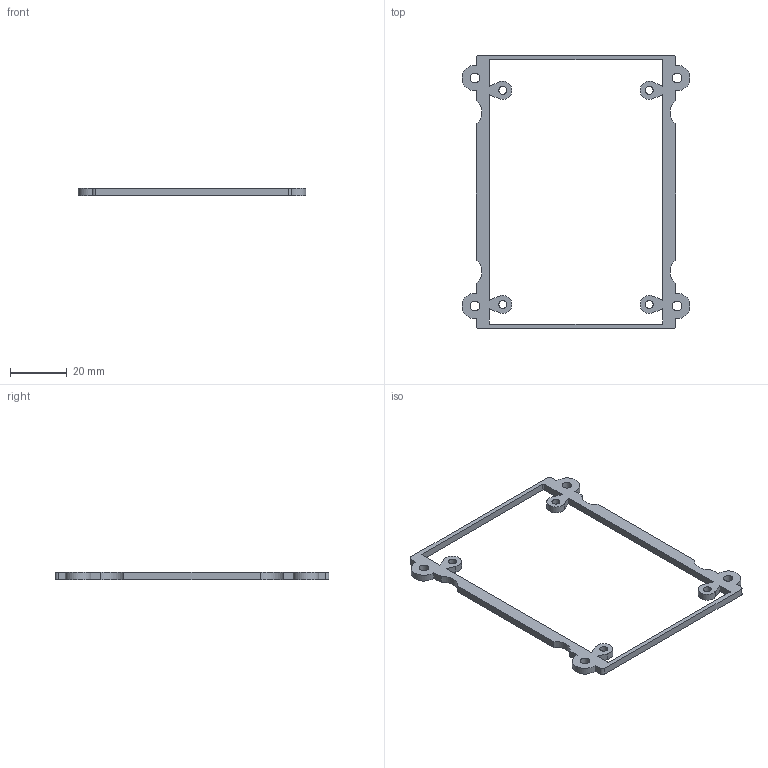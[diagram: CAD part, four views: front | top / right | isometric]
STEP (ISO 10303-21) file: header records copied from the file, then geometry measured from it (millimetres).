
FILE_DESCRIPTION(/* description */ (''),/* implementation_level */ '2;1');
FILE_NAME(/* name */ 'carrier-retainer.step',/* time_stamp */ '2026-09-15T10:15:49-07:00',/* author */ (''),/* organization */ (''),/* preprocessor_version */ 'ST-DEVELOPER v20.2',/* originating_system */ 'Autodesk Translation Framework v15.15.0.0',/* authorisation */ '');
FILE_SCHEMA (('AUTOMOTIVE_DESIGN { 1 0 10303 214 3 1 1 }'));
Length unit declared in the file: centimetre
Products named in the file (1): 03 WT32 retainer - four anchors
Bounding box: 80 x 96 x 2.5 mm (x, y, z)
Volume: 3184.6 mm3; surface area: 4579.6 mm2
Topology: 1 solids, 1 shells, 58 faces, 168 edges, 112 vertices
Faces by surface type: plane 30, cylinder 28
Full cylindrical faces by diameter (mm): 2.8 x4, 3.4 x4
Entity records: 2004 total; most frequent: DIRECTION 342, CARTESIAN_POINT 339, ORIENTED_EDGE 336, EDGE_CURVE 168, AXIS2_PLACEMENT_3D 115, LINE 112, VECTOR 112, VERTEX_POINT 112
